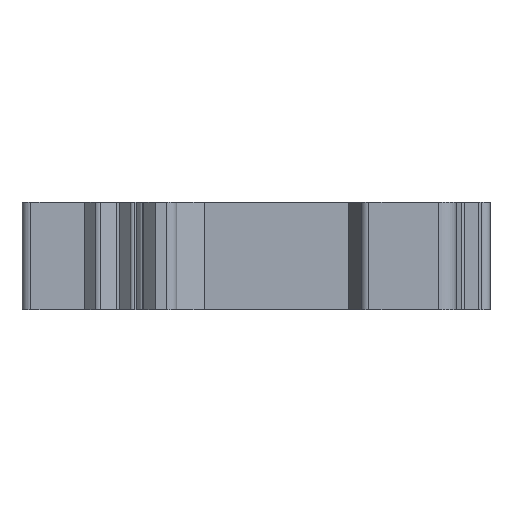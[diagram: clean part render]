
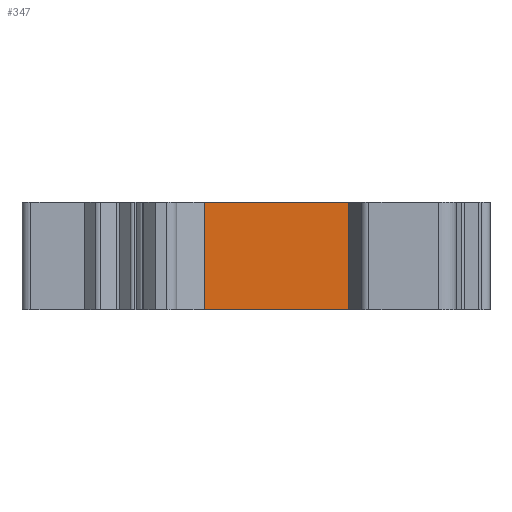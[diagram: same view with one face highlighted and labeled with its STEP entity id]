
A CAD part, left-side view. The second image highlights one B-rep face of the part: STEP entity #347.
In plain terms, the highlighted planar face has unit normal (-1, 0, 0).
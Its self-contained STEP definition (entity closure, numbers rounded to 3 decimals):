
#347=ADVANCED_FACE('',(#575),#447,.F.);
#447=PLANE('',#3022);
#575=FACE_OUTER_BOUND('',#711,.T.);
#711=EDGE_LOOP('',(#1156,#1157,#1158,#1159));
#1156=ORIENTED_EDGE('',*,*,#2126,.T.);
#1157=ORIENTED_EDGE('',*,*,#2127,.F.);
#1158=ORIENTED_EDGE('',*,*,#2128,.F.);
#1159=ORIENTED_EDGE('',*,*,#2124,.T.);
#1754=VERTEX_POINT('',#4452);
#1755=VERTEX_POINT('',#4454);
#1756=VERTEX_POINT('',#4458);
#1757=VERTEX_POINT('',#4460);
#2124=EDGE_CURVE('',#1755,#1754,#2454,.T.);
#2126=EDGE_CURVE('',#1754,#1756,#2456,.T.);
#2127=EDGE_CURVE('',#1757,#1756,#2457,.T.);
#2128=EDGE_CURVE('',#1755,#1757,#2458,.T.);
#2454=LINE('',#4453,#2768);
#2456=LINE('',#4457,#2770);
#2457=LINE('',#4459,#2771);
#2458=LINE('',#4461,#2772);
#2768=VECTOR('',#3657,1.);
#2770=VECTOR('',#3661,1.);
#2771=VECTOR('',#3662,1.);
#2772=VECTOR('',#3663,1.);
#3022=AXIS2_PLACEMENT_3D('',#4462,#3664,#3665);
#3657=DIRECTION('',(0.,0.,1.));
#3661=DIRECTION('',(0.,1.,0.));
#3662=DIRECTION('',(0.,0.,1.));
#3663=DIRECTION('',(0.,1.,0.));
#3664=DIRECTION('',(1.,0.,0.));
#3665=DIRECTION('',(0.,0.,1.));
#4452=CARTESIAN_POINT('',(450.252,-1500.976,0.));
#4453=CARTESIAN_POINT('',(450.252,-1500.976,-10.2));
#4454=CARTESIAN_POINT('',(450.252,-1500.976,-12.2));
#4457=CARTESIAN_POINT('',(450.252,-1500.976,0.));
#4458=CARTESIAN_POINT('',(450.252,-1484.676,0.));
#4459=CARTESIAN_POINT('',(450.252,-1484.676,-10.2));
#4460=CARTESIAN_POINT('',(450.252,-1484.676,-12.2));
#4461=CARTESIAN_POINT('',(450.252,-1500.976,-12.2));
#4462=CARTESIAN_POINT('',(450.252,-1500.976,-10.2));
